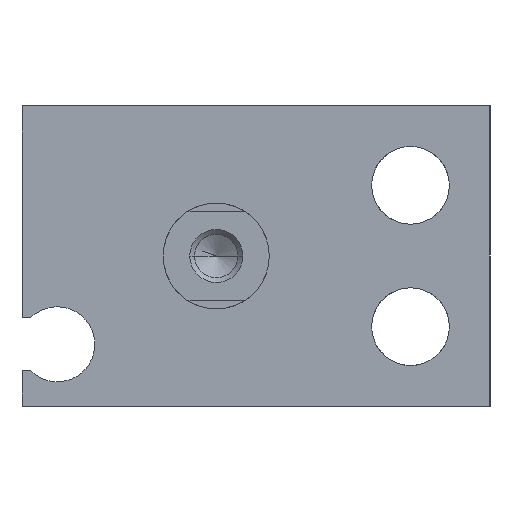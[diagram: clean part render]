
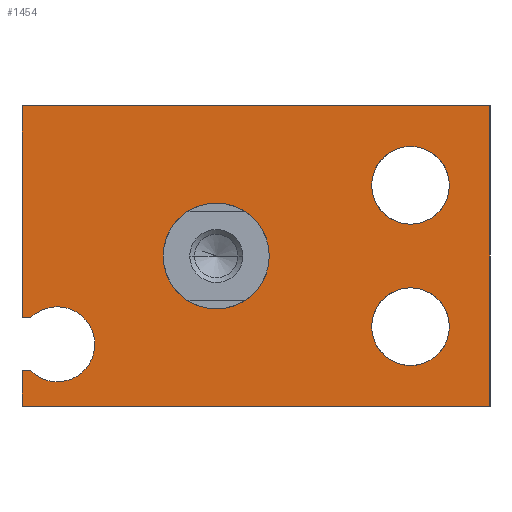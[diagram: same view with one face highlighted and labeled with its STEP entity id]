
A CAD part, left-side view. The second image highlights one B-rep face of the part: STEP entity #1454.
In plain terms, the highlighted planar face has unit normal (-1, 0, 0).
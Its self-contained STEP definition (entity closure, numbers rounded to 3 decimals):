
#13 = EDGE_CURVE ( 'NONE', #587, #584, #2482, .T. ) ;
#30 = VERTEX_POINT ( 'NONE', #2433 ) ;
#32 = EDGE_CURVE ( 'NONE', #297, #516, #1118, .T. ) ;
#46 = EDGE_LOOP ( 'NONE', ( #1116, #367 ) ) ;
#58 = EDGE_CURVE ( 'NONE', #584, #2158, #2657, .T. ) ;
#64 = VECTOR ( 'NONE', #1036, 1000. ) ;
#97 = ORIENTED_EDGE ( 'NONE', *, *, #58, .T. ) ;
#115 = CARTESIAN_POINT ( 'NONE',  ( 0., -15.5, 8.5 ) ) ;
#125 = EDGE_CURVE ( 'NONE', #986, #1795, #277, .T. ) ;
#130 = EDGE_CURVE ( 'NONE', #1795, #1341, #730, .T. ) ;
#135 = EDGE_CURVE ( 'NONE', #1542, #2761, #2231, .T. ) ;
#219 = VECTOR ( 'NONE', #1241, 1000. ) ;
#247 = DIRECTION ( 'NONE',  ( 0., 0., 1. ) ) ;
#277 = LINE ( 'NONE', #1924, #620 ) ;
#288 = DIRECTION ( 'NONE',  ( 0., 0., 1. ) ) ;
#297 = VERTEX_POINT ( 'NONE', #3068 ) ;
#302 = AXIS2_PLACEMENT_3D ( 'NONE', #2521, #543, #1532 ) ;
#325 = DIRECTION ( 'NONE',  ( 0., -1., 0. ) ) ;
#336 = ORIENTED_EDGE ( 'NONE', *, *, #2571, .F. ) ;
#359 = LINE ( 'NONE', #2236, #1551 ) ;
#367 = ORIENTED_EDGE ( 'NONE', *, *, #2124, .F. ) ;
#387 = CARTESIAN_POINT ( 'NONE',  ( 0., -15.5, 8.5 ) ) ;
#400 = ORIENTED_EDGE ( 'NONE', *, *, #130, .T. ) ;
#408 = FACE_BOUND ( 'NONE', #1176, .T. ) ;
#427 = VERTEX_POINT ( 'NONE', #1157 ) ;
#441 = CARTESIAN_POINT ( 'NONE',  ( 0., 9., -5. ) ) ;
#454 = FACE_BOUND ( 'NONE', #46, .T. ) ;
#463 = ORIENTED_EDGE ( 'NONE', *, *, #1373, .F. ) ;
#513 = AXIS2_PLACEMENT_3D ( 'NONE', #1369, #2108, #1129 ) ;
#516 = VERTEX_POINT ( 'NONE', #2891 ) ;
#543 = DIRECTION ( 'NONE',  ( -1., 0., 0. ) ) ;
#584 = VERTEX_POINT ( 'NONE', #2702 ) ;
#587 = VERTEX_POINT ( 'NONE', #1964 ) ;
#601 = ORIENTED_EDGE ( 'NONE', *, *, #32, .F. ) ;
#620 = VECTOR ( 'NONE', #2893, 1000. ) ;
#651 = DIRECTION ( 'NONE',  ( -1., 0., 0. ) ) ;
#700 = DIRECTION ( 'NONE',  ( 1., 0., 0. ) ) ;
#730 = LINE ( 'NONE', #2407, #2385 ) ;
#752 = ORIENTED_EDGE ( 'NONE', *, *, #2115, .T. ) ;
#758 = AXIS2_PLACEMENT_3D ( 'NONE', #2824, #2028, #2555 ) ;
#769 = DIRECTION ( 'NONE',  ( 0., 0., 1. ) ) ;
#834 = EDGE_LOOP ( 'NONE', ( #2144, #752 ) ) ;
#844 = AXIS2_PLACEMENT_3D ( 'NONE', #3070, #651, #2349 ) ;
#986 = VERTEX_POINT ( 'NONE', #2491 ) ;
#1017 = EDGE_CURVE ( 'NONE', #2158, #1542, #359, .T. ) ;
#1022 = CARTESIAN_POINT ( 'NONE',  ( 0., -15.5, -8.5 ) ) ;
#1036 = DIRECTION ( 'NONE',  ( 0., 1., 0. ) ) ;
#1085 = DIRECTION ( 'NONE',  ( 0., 0., 1. ) ) ;
#1099 = ORIENTED_EDGE ( 'NONE', *, *, #1549, .F. ) ;
#1104 = AXIS2_PLACEMENT_3D ( 'NONE', #2312, #1117, #1085 ) ;
#1112 = PLANE ( 'NONE',  #513 ) ;
#1116 = ORIENTED_EDGE ( 'NONE', *, *, #2793, .F. ) ;
#1117 = DIRECTION ( 'NONE',  ( -1., 0., 0. ) ) ;
#1118 = CIRCLE ( 'NONE', #1672, 2.2 ) ;
#1129 = DIRECTION ( 'NONE',  ( 0., 0., 1. ) ) ;
#1133 = AXIS2_PLACEMENT_3D ( 'NONE', #2105, #700, #2125 ) ;
#1147 = CIRCLE ( 'NONE', #844, 2.125 ) ;
#1157 = CARTESIAN_POINT ( 'NONE',  ( 0., -11., 6.2 ) ) ;
#1176 = EDGE_LOOP ( 'NONE', ( #1099, #601 ) ) ;
#1226 = CARTESIAN_POINT ( 'NONE',  ( 0., 11., -6.5 ) ) ;
#1241 = DIRECTION ( 'NONE',  ( 0., 0., -1. ) ) ;
#1259 = CARTESIAN_POINT ( 'NONE',  ( 0., 10.505, -6.5 ) ) ;
#1341 = VERTEX_POINT ( 'NONE', #2960 ) ;
#1369 = CARTESIAN_POINT ( 'NONE',  ( 0., 9., -5. ) ) ;
#1373 = EDGE_CURVE ( 'NONE', #1918, #2018, #2637, .T. ) ;
#1379 = VERTEX_POINT ( 'NONE', #2368 ) ;
#1454 = ADVANCED_FACE ( 'NONE', ( #2619, #2354, #408, #454 ), #1112, .T. ) ;
#1510 = DIRECTION ( 'NONE',  ( -1., 0., 0. ) ) ;
#1532 = DIRECTION ( 'NONE',  ( 0., 0., 1. ) ) ;
#1542 = VERTEX_POINT ( 'NONE', #2791 ) ;
#1545 = ORIENTED_EDGE ( 'NONE', *, *, #1017, .T. ) ;
#1549 = EDGE_CURVE ( 'NONE', #516, #297, #1716, .T. ) ;
#1551 = VECTOR ( 'NONE', #325, 1000. ) ;
#1672 = AXIS2_PLACEMENT_3D ( 'NONE', #1934, #1510, #288 ) ;
#1703 = DIRECTION ( 'NONE',  ( -1., 0., 0. ) ) ;
#1716 = CIRCLE ( 'NONE', #758, 2.2 ) ;
#1719 = DIRECTION ( 'NONE',  ( 0., 0., -1. ) ) ;
#1734 = CARTESIAN_POINT ( 'NONE',  ( 0., 11., -8.5 ) ) ;
#1748 = CARTESIAN_POINT ( 'NONE',  ( 0., -11., 4. ) ) ;
#1795 = VERTEX_POINT ( 'NONE', #2425 ) ;
#1873 = AXIS2_PLACEMENT_3D ( 'NONE', #441, #2804, #2077 ) ;
#1887 = AXIS2_PLACEMENT_3D ( 'NONE', #1748, #1703, #769 ) ;
#1893 = CARTESIAN_POINT ( 'NONE',  ( 0., 9., -2.875 ) ) ;
#1918 = VERTEX_POINT ( 'NONE', #2271 ) ;
#1924 = CARTESIAN_POINT ( 'NONE',  ( 0., 11., 8.5 ) ) ;
#1928 = ORIENTED_EDGE ( 'NONE', *, *, #135, .T. ) ;
#1934 = CARTESIAN_POINT ( 'NONE',  ( 0., -11., -4. ) ) ;
#1952 = DIRECTION ( 'NONE',  ( 0., -1., 0. ) ) ;
#1964 = CARTESIAN_POINT ( 'NONE',  ( 0., 10.505, -6.5 ) ) ;
#1992 = ORIENTED_EDGE ( 'NONE', *, *, #2535, .T. ) ;
#2018 = VERTEX_POINT ( 'NONE', #1893 ) ;
#2020 = EDGE_CURVE ( 'NONE', #2636, #1379, #2650, .T. ) ;
#2028 = DIRECTION ( 'NONE',  ( -1., 0., 0. ) ) ;
#2032 = ORIENTED_EDGE ( 'NONE', *, *, #125, .T. ) ;
#2077 = DIRECTION ( 'NONE',  ( 0., 0., 1. ) ) ;
#2105 = CARTESIAN_POINT ( 'NONE',  ( 0., 0., 0. ) ) ;
#2108 = DIRECTION ( 'NONE',  ( -1., 0., 0. ) ) ;
#2115 = EDGE_CURVE ( 'NONE', #1379, #2636, #2305, .T. ) ;
#2124 = EDGE_CURVE ( 'NONE', #30, #427, #3001, .T. ) ;
#2125 = DIRECTION ( 'NONE',  ( 0., 0., -1. ) ) ;
#2144 = ORIENTED_EDGE ( 'NONE', *, *, #2020, .T. ) ;
#2158 = VERTEX_POINT ( 'NONE', #1734 ) ;
#2171 = DIRECTION ( 'NONE',  ( 1., 0., 0. ) ) ;
#2192 = AXIS2_PLACEMENT_3D ( 'NONE', #2436, #2171, #1719 ) ;
#2231 = LINE ( 'NONE', #1022, #3040 ) ;
#2236 = CARTESIAN_POINT ( 'NONE',  ( 0., 11., -8.5 ) ) ;
#2271 = CARTESIAN_POINT ( 'NONE',  ( 0., 9., -7.125 ) ) ;
#2274 = CIRCLE ( 'NONE', #1104, 2.2 ) ;
#2303 = DIRECTION ( 'NONE',  ( 0., 1., 0. ) ) ;
#2305 = CIRCLE ( 'NONE', #2192, 3. ) ;
#2312 = CARTESIAN_POINT ( 'NONE',  ( 0., -11., 4. ) ) ;
#2327 = CIRCLE ( 'NONE', #302, 2.125 ) ;
#2349 = DIRECTION ( 'NONE',  ( 0., 0., 1. ) ) ;
#2354 = FACE_BOUND ( 'NONE', #834, .T. ) ;
#2368 = CARTESIAN_POINT ( 'NONE',  ( 0., 0., 3. ) ) ;
#2385 = VECTOR ( 'NONE', #1952, 1000. ) ;
#2407 = CARTESIAN_POINT ( 'NONE',  ( 0., 11., -3.5 ) ) ;
#2425 = CARTESIAN_POINT ( 'NONE',  ( 0., 11., -3.5 ) ) ;
#2433 = CARTESIAN_POINT ( 'NONE',  ( 0., -11., 1.8 ) ) ;
#2436 = CARTESIAN_POINT ( 'NONE',  ( 0., 0., 0. ) ) ;
#2482 = LINE ( 'NONE', #1259, #64 ) ;
#2491 = CARTESIAN_POINT ( 'NONE',  ( 0., 11., 8.5 ) ) ;
#2496 = ORIENTED_EDGE ( 'NONE', *, *, #13, .T. ) ;
#2521 = CARTESIAN_POINT ( 'NONE',  ( 0., 9., -5. ) ) ;
#2535 = EDGE_CURVE ( 'NONE', #2761, #986, #3055, .T. ) ;
#2555 = DIRECTION ( 'NONE',  ( 0., 0., 1. ) ) ;
#2571 = EDGE_CURVE ( 'NONE', #2018, #1341, #1147, .T. ) ;
#2617 = VECTOR ( 'NONE', #2303, 1000. ) ;
#2619 = FACE_OUTER_BOUND ( 'NONE', #2928, .T. ) ;
#2636 = VERTEX_POINT ( 'NONE', #3114 ) ;
#2637 = CIRCLE ( 'NONE', #1873, 2.125 ) ;
#2650 = CIRCLE ( 'NONE', #1133, 3. ) ;
#2657 = LINE ( 'NONE', #1226, #219 ) ;
#2664 = ORIENTED_EDGE ( 'NONE', *, *, #3033, .F. ) ;
#2702 = CARTESIAN_POINT ( 'NONE',  ( 0., 11., -6.5 ) ) ;
#2761 = VERTEX_POINT ( 'NONE', #115 ) ;
#2791 = CARTESIAN_POINT ( 'NONE',  ( 0., -15.5, -8.5 ) ) ;
#2793 = EDGE_CURVE ( 'NONE', #427, #30, #2274, .T. ) ;
#2804 = DIRECTION ( 'NONE',  ( -1., 0., 0. ) ) ;
#2824 = CARTESIAN_POINT ( 'NONE',  ( 0., -11., -4. ) ) ;
#2891 = CARTESIAN_POINT ( 'NONE',  ( 0., -11., -1.8 ) ) ;
#2893 = DIRECTION ( 'NONE',  ( 0., 0., -1. ) ) ;
#2928 = EDGE_LOOP ( 'NONE', ( #1545, #1928, #1992, #2032, #400, #336, #463, #2664, #2496, #97 ) ) ;
#2960 = CARTESIAN_POINT ( 'NONE',  ( 0., 10.505, -3.5 ) ) ;
#3001 = CIRCLE ( 'NONE', #1887, 2.2 ) ;
#3033 = EDGE_CURVE ( 'NONE', #587, #1918, #2327, .T. ) ;
#3040 = VECTOR ( 'NONE', #247, 1000. ) ;
#3055 = LINE ( 'NONE', #387, #2617 ) ;
#3068 = CARTESIAN_POINT ( 'NONE',  ( 0., -11., -6.2 ) ) ;
#3070 = CARTESIAN_POINT ( 'NONE',  ( 0., 9., -5. ) ) ;
#3114 = CARTESIAN_POINT ( 'NONE',  ( 0., 0., -3. ) ) ;
